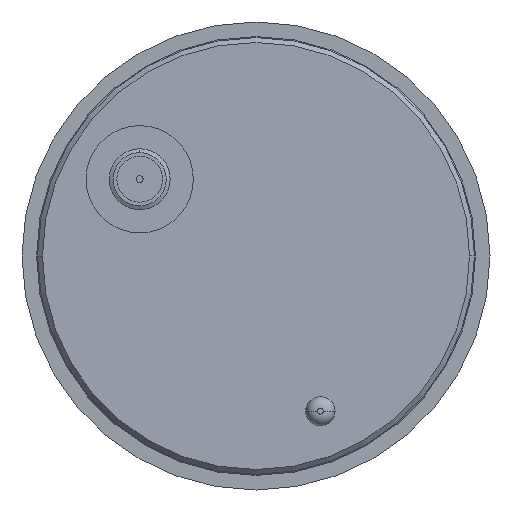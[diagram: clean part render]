
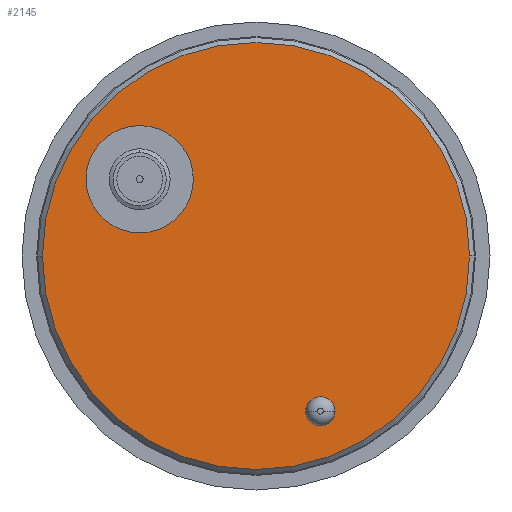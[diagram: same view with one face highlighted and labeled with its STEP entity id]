
A CAD part, front view. The second image highlights one B-rep face of the part: STEP entity #2145.
In plain terms, the highlighted planar face has unit normal (0, -1, 0).
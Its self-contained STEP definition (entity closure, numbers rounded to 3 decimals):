
#230 = AXIS2_PLACEMENT_3D ( 'NONE', #2884, #2880, #2888 ) ;
#683 = EDGE_CURVE ( 'NONE', #1015, #1026, #2508, .T. ) ;
#688 = EDGE_CURVE ( 'NONE', #864, #1101, #2531, .T. ) ;
#724 = EDGE_CURVE ( 'NONE', #881, #865, #2616, .T. ) ;
#864 = VERTEX_POINT ( 'NONE', #5079 ) ;
#865 = VERTEX_POINT ( 'NONE', #5080 ) ;
#881 = VERTEX_POINT ( 'NONE', #5096 ) ;
#1015 = VERTEX_POINT ( 'NONE', #5210 ) ;
#1026 = VERTEX_POINT ( 'NONE', #5221 ) ;
#1101 = VERTEX_POINT ( 'NONE', #5252 ) ;
#1240 = EDGE_LOOP ( 'NONE', ( #6802, #6925 ) ) ;
#1267 = EDGE_LOOP ( 'NONE', ( #6906, #6899 ) ) ;
#2145 = ADVANCED_FACE ( 'NONE', ( #2883, #2878, #2886 ), #2887, .F. ) ;
#2508 = CIRCLE ( 'NONE', #2512, 21.9 ) ;
#2512 = AXIS2_PLACEMENT_3D ( 'NONE', #7126, #7127, #7128 ) ;
#2531 = CIRCLE ( 'NONE', #2535, 5.5 ) ;
#2535 = AXIS2_PLACEMENT_3D ( 'NONE', #7141, #7142, #7143 ) ;
#2616 = CIRCLE ( 'NONE', #2618, 1.5 ) ;
#2618 = AXIS2_PLACEMENT_3D ( 'NONE', #7249, #7250, #7251 ) ;
#2878 = FACE_OUTER_BOUND ( 'NONE', #1267, .T. ) ;
#2880 = DIRECTION ( 'NONE',  ( 0., 1., 0. ) ) ;
#2883 = FACE_BOUND ( 'NONE', #3918, .T. ) ;
#2884 = CARTESIAN_POINT ( 'NONE',  ( -5.237, 0., 0. ) ) ;
#2886 = FACE_BOUND ( 'NONE', #1240, .T. ) ;
#2887 = PLANE ( 'NONE',  #230 ) ;
#2888 = DIRECTION ( 'NONE',  ( -1., 0., 0. ) ) ;
#3918 = EDGE_LOOP ( 'NONE', ( #6804, #6805 ) ) ;
#5079 = CARTESIAN_POINT ( 'NONE',  ( -11.929, 0., 2.375 ) ) ;
#5080 = CARTESIAN_POINT ( 'NONE',  ( 8.104, 0., -15.92 ) ) ;
#5096 = CARTESIAN_POINT ( 'NONE',  ( 5.104, 0., -15.92 ) ) ;
#5210 = CARTESIAN_POINT ( 'NONE',  ( -21.9, 0., 0. ) ) ;
#5221 = CARTESIAN_POINT ( 'NONE',  ( 21.9, 0., 0. ) ) ;
#5252 = CARTESIAN_POINT ( 'NONE',  ( -11.929, 0., 13.375 ) ) ;
#5640 = CIRCLE ( 'NONE', #5643, 1.5 ) ;
#5642 = CIRCLE ( 'NONE', #5647, 5.5 ) ;
#5643 = AXIS2_PLACEMENT_3D ( 'NONE', #7942, #7943, #7944 ) ;
#5644 = CIRCLE ( 'NONE', #5645, 21.9 ) ;
#5645 = AXIS2_PLACEMENT_3D ( 'NONE', #7947, #7948, #7949 ) ;
#5647 = AXIS2_PLACEMENT_3D ( 'NONE', #7950, #7951, #7952 ) ;
#6639 = EDGE_CURVE ( 'NONE', #865, #881, #5640, .T. ) ;
#6641 = EDGE_CURVE ( 'NONE', #1026, #1015, #5644, .T. ) ;
#6642 = EDGE_CURVE ( 'NONE', #1101, #864, #5642, .T. ) ;
#6802 = ORIENTED_EDGE ( 'NONE', *, *, #688, .T. ) ;
#6804 = ORIENTED_EDGE ( 'NONE', *, *, #724, .T. ) ;
#6805 = ORIENTED_EDGE ( 'NONE', *, *, #6639, .T. ) ;
#6899 = ORIENTED_EDGE ( 'NONE', *, *, #6641, .F. ) ;
#6906 = ORIENTED_EDGE ( 'NONE', *, *, #683, .F. ) ;
#6925 = ORIENTED_EDGE ( 'NONE', *, *, #6642, .T. ) ;
#7126 = CARTESIAN_POINT ( 'NONE',  ( 0., 0., 0. ) ) ;
#7127 = DIRECTION ( 'NONE',  ( 0., 1., 0. ) ) ;
#7128 = DIRECTION ( 'NONE',  ( -1., 0., 0. ) ) ;
#7141 = CARTESIAN_POINT ( 'NONE',  ( -11.929, 0., 7.875 ) ) ;
#7142 = DIRECTION ( 'NONE',  ( 0., 1., 0. ) ) ;
#7143 = DIRECTION ( 'NONE',  ( 0., 0., 1. ) ) ;
#7249 = CARTESIAN_POINT ( 'NONE',  ( 6.604, 0., -15.92 ) ) ;
#7250 = DIRECTION ( 'NONE',  ( 0., 1., 0. ) ) ;
#7251 = DIRECTION ( 'NONE',  ( -1., 0., 0. ) ) ;
#7942 = CARTESIAN_POINT ( 'NONE',  ( 6.604, 0., -15.92 ) ) ;
#7943 = DIRECTION ( 'NONE',  ( 0., 1., 0. ) ) ;
#7944 = DIRECTION ( 'NONE',  ( -1., 0., 0. ) ) ;
#7947 = CARTESIAN_POINT ( 'NONE',  ( 0., 0., 0. ) ) ;
#7948 = DIRECTION ( 'NONE',  ( 0., 1., 0. ) ) ;
#7949 = DIRECTION ( 'NONE',  ( -1., 0., 0. ) ) ;
#7950 = CARTESIAN_POINT ( 'NONE',  ( -11.929, 0., 7.875 ) ) ;
#7951 = DIRECTION ( 'NONE',  ( 0., 1., 0. ) ) ;
#7952 = DIRECTION ( 'NONE',  ( 0., 0., 1. ) ) ;
